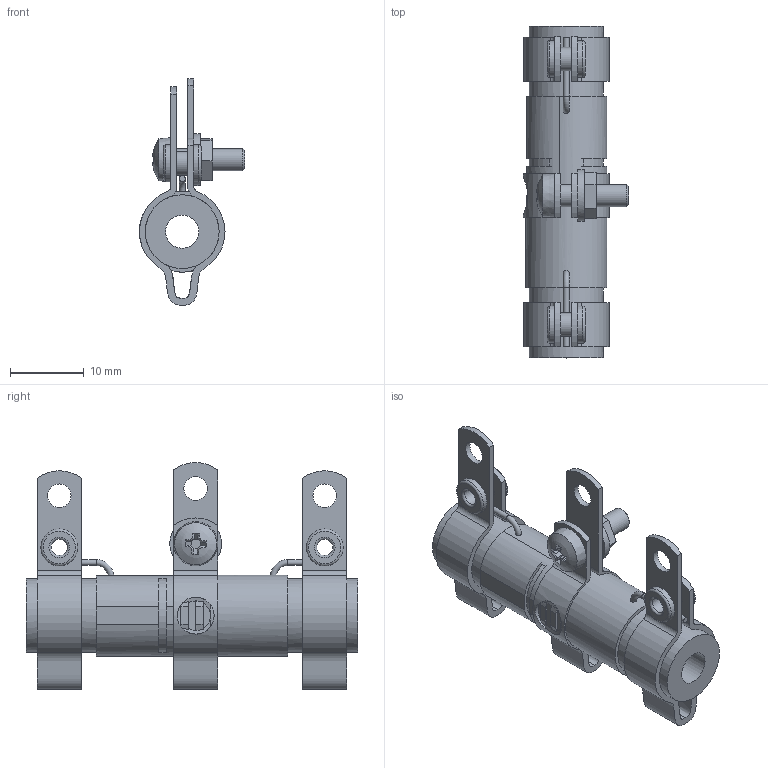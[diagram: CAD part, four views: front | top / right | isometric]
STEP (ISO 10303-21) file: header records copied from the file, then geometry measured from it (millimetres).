
FILE_DESCRIPTION(/* description */ (''),/* implementation_level */ '2;1');
FILE_NAME(/* name */ 'C:\_Vault\Dati\CATALOGO\RC-RS\RCR-RSR TC\RSR TC 15.stp',/* time_stamp */ '2014-03-20T11:17:34+01:00',/* author */ ('stefano'),/* organization */ (''),/* preprocessor_version */ 'ST-DEVELOPER v15.2',/* originating_system */ 'Autodesk Inventor 2014',/* authorisation */ '');
FILE_SCHEMA (('AUTOMOTIVE_DESIGN { 1 0 10303 214 3 1 1 }'));
Length unit declared in the file: millimetre
Products named in the file (1): RSR TC 15
Bounding box: 14.25 x 45 x 30.75 mm (x, y, z)
Volume: 4223.5 mm3; surface area: 4346.2 mm2
Topology: 1 solids, 17 shells, 256 faces, 603 edges, 386 vertices
Faces by surface type: plane 125, cylinder 81, cone 20, bspline 18, torus 11, sphere 1
Full cylindrical faces by diameter (mm): 0.4 x2, 0.8 x4, 2.2 x2, 2.75 x1, 3 x1, 3.2 x7, 4.134 x1, 4.5 x1, 5 x4, 7 x1, 10 x2, 11 x1
Entity records: 8123 total; most frequent: CARTESIAN_POINT 2211, DIRECTION 1155, ORIENTED_EDGE 1102, EDGE_CURVE 543, AXIS2_PLACEMENT_3D 469, VERTEX_POINT 371, EDGE_LOOP 340, STYLED_ITEM 256
